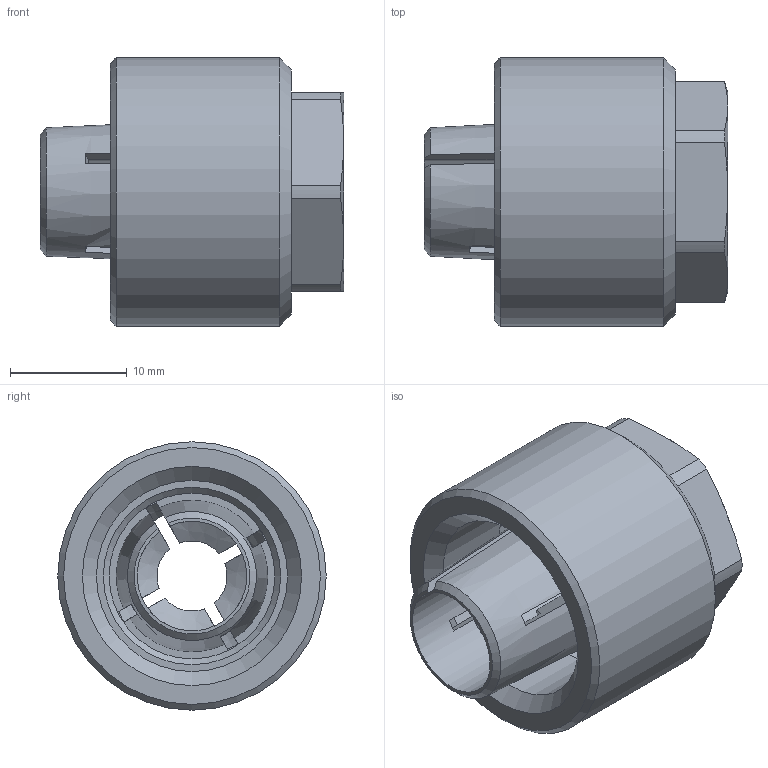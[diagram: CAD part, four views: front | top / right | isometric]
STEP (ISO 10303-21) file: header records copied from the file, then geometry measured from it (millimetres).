
FILE_DESCRIPTION(('STEP AP214'), '1');
FILE_NAME('Öàíãà AMB çàæèìíàÿ ñ ãàéêîé 6mm', '', ('UNSPECIFIED'), ('UNSPECIFIED'), 'C3D Converter', 'C3D Toolkit', '');
FILE_SCHEMA(('AUTOMOTIVE_DESIGN { 1 0 10303 214 3 1 1}'));
Length unit declared in the file: millimetre
Assembly tree (2 placements, depth 2):
  (unnamed)
    (unnamed)
    (unnamed)
Bounding box: 26 x 23 x 23 mm (x, y, z)
Volume: 5141.8 mm3; surface area: 5105.9 mm2
Topology: 2 solids, 2 shells, 91 faces, 229 edges, 148 vertices
Faces by surface type: plane 44, cylinder 26, cone 21
Full cylindrical faces by diameter (mm): 11.5 x1, 14.2 x1, 15.6 x1, 16.376 x1, 18.1 x1, 18.5 x1, 23 x1
Entity records: 3368 total; most frequent: CARTESIAN_POINT 1089, DIRECTION 446, ORIENTED_EDGE 434, EDGE_CURVE 217, AXIS2_PLACEMENT_3D 176, VERTEX_POINT 148, EDGE_LOOP 111, LINE 94
